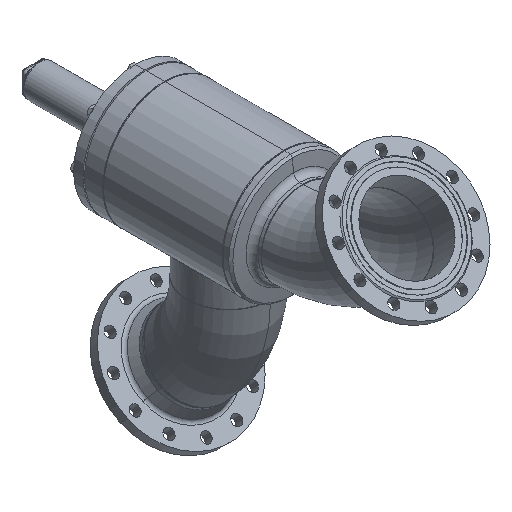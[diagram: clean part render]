
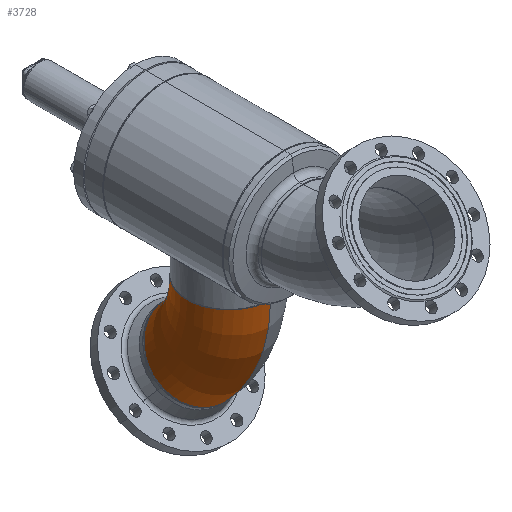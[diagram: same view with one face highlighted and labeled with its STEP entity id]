
A CAD part, isometric view. The second image highlights one B-rep face of the part: STEP entity #3728.
In plain terms, the highlighted toroidal (fillet/blend) face has major radius 305 mm and minor radius 109.55 mm.
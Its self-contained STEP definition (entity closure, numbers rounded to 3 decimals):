
#709 = CARTESIAN_POINT ( 'NONE',  ( 0., -109.55, 0. ) ) ;
#17320 = VERTEX_POINT ( 'NONE', #2119 ) ;
#17741 = EDGE_CURVE ( 'NONE', #19826, #17320, #2383, .T. ) ;
#2119 = CARTESIAN_POINT ( 'NONE',  ( 0., 109.55, 0. ) ) ;
#18731 = CIRCLE ( 'NONE', #18732, 109.55 ) ;
#18732 = AXIS2_PLACEMENT_3D ( 'NONE', #18733, #18734, #18735 ) ;
#18733 = CARTESIAN_POINT ( 'NONE',  ( 0., 0., 0. ) ) ;
#18734 = DIRECTION ( 'NONE',  ( 1., 0., 0. ) ) ;
#18735 = DIRECTION ( 'NONE',  ( 0., 0., -1. ) ) ;
#2383 = CIRCLE ( 'NONE', #2384, 414.55 ) ;
#2384 = AXIS2_PLACEMENT_3D ( 'NONE', #2385, #2386, #2387 ) ;
#2385 = CARTESIAN_POINT ( 'NONE',  ( 0., -305., 0. ) ) ;
#2386 = DIRECTION ( 'NONE',  ( 0., 0., 1. ) ) ;
#2387 = DIRECTION ( 'NONE',  ( 1., 0., 0. ) ) ;
#2393 = ORIENTED_EDGE ( 'NONE', *, *, #11735, .F. ) ;
#2944 = ORIENTED_EDGE ( 'NONE', *, *, #17741, .F. ) ;
#19406 = VERTEX_POINT ( 'NONE', #6416 ) ;
#19826 = VERTEX_POINT ( 'NONE', #6860 ) ;
#3480 = EDGE_LOOP ( 'NONE', ( #2944, #2393, #11211, #10681 ) ) ;
#3728 = ADVANCED_FACE ( 'NONE', ( #23712 ), #23713, .T. ) ;
#6416 = CARTESIAN_POINT ( 'NONE',  ( 138.204, -166.796, 0. ) ) ;
#23148 = CIRCLE ( 'NONE', #23149, 195.45 ) ;
#23149 = AXIS2_PLACEMENT_3D ( 'NONE', #23150, #23151, #23152 ) ;
#23150 = CARTESIAN_POINT ( 'NONE',  ( 0., -305., 0. ) ) ;
#23151 = DIRECTION ( 'NONE',  ( 0., 0., 1. ) ) ;
#23152 = DIRECTION ( 'NONE',  ( 1., 0., 0. ) ) ;
#6860 = CARTESIAN_POINT ( 'NONE',  ( 293.131, -11.869, 0. ) ) ;
#23712 = FACE_OUTER_BOUND ( 'NONE', #3480, .T. ) ;
#23713 = TOROIDAL_SURFACE ( 'NONE', #23714, 305., 109.55 ) ;
#23714 = AXIS2_PLACEMENT_3D ( 'NONE', #23715, #23717, #23718 ) ;
#23715 = CARTESIAN_POINT ( 'NONE',  ( 0., -305., 0. ) ) ;
#23717 = DIRECTION ( 'NONE',  ( 0., 0., 1. ) ) ;
#23718 = DIRECTION ( 'NONE',  ( 1., 0., 0. ) ) ;
#10304 = EDGE_CURVE ( 'NONE', #15229, #17320, #18731, .T. ) ;
#10681 = ORIENTED_EDGE ( 'NONE', *, *, #10304, .T. ) ;
#11211 = ORIENTED_EDGE ( 'NONE', *, *, #13560, .T. ) ;
#11735 = EDGE_CURVE ( 'NONE', #19406, #19826, #15140, .T. ) ;
#13560 = EDGE_CURVE ( 'NONE', #19406, #15229, #23148, .T. ) ;
#15140 = CIRCLE ( 'NONE', #15141, 109.55 ) ;
#15141 = AXIS2_PLACEMENT_3D ( 'NONE', #15142, #15164, #15165 ) ;
#15142 = CARTESIAN_POINT ( 'NONE',  ( 215.668, -89.332, 0. ) ) ;
#15164 = DIRECTION ( 'NONE',  ( 0.707, -0.707, 0. ) ) ;
#15165 = DIRECTION ( 'NONE',  ( 0., 0., -1. ) ) ;
#15229 = VERTEX_POINT ( 'NONE', #709 ) ;
